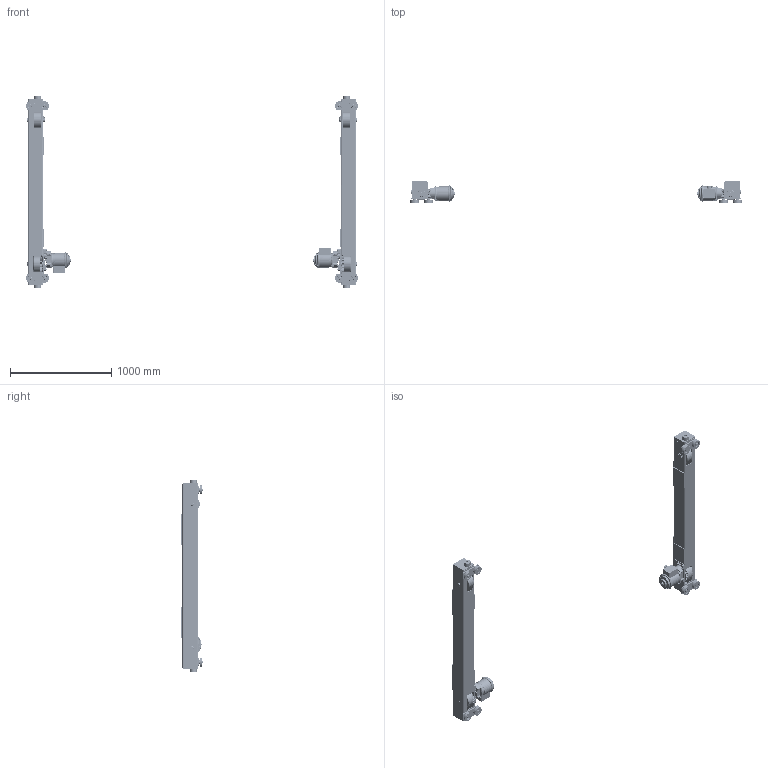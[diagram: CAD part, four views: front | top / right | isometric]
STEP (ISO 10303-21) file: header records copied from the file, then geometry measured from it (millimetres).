
FILE_DESCRIPTION (( 'STEP AP214' ), '1' );
FILE_NAME ('MTMH-3-0335.STEP', '2026-08-14T13:00:07', ( '' ), ( '' ), 'SwSTEP 2.0', 'SolidWorks 2026', '' );
FILE_SCHEMA (( 'AUTOMOTIVE_DESIGN' ));
Length unit declared in the file: inch
Products named in the file (67): 6240815; N6QO720E91311; 6240824; MTMH-3-0335; J1BE1-0602020_AS 1420 - M6 x 20-S; 62588; 9012707_9012707; G1JE040S9609; 9000605; G1JE025S9303; 5204613; 9047252_9047252; MS555010_MS555010; T7G117030; N6QO310E9108_N6QO3101108 DOMESTIC; 9012711_9012711; T600-600-004_71.125; N6QL210207; G1JE025S9603; 9012709_Rectangular section spring washer BS 4464 - 16 (Type B); G1JE025S9604; 6240805X_6240805A; G1JE025S9610; J1WS011-10060_GB_FASTENER_WASHER_SW 6; 9012514_9012514; 62587; G1JE025S9401; G1JE040T9503; 6240820; 9047125_B27.7M - 3AM1-23; 6240825; 9093330_9093330; G1JE025S9701; 6240810; 9091250_9091250; G1JE025S9707; N6Q07201102; N6QO720E91013; 9093101_9093101; 9093327_9093327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
Assembly tree (250 placements, depth 4):
  MTMH-3-0335
    62422_0245-0335 - 25# RAIL
      62420_6242001
        T600-600-004_71.125
        6240824
        6240820
        6240824
      6240811  x2
      6240810
      6240808
      6240809
      T7G117030
      6240817X_6240817A  x2
        6240805X_6240805A
        6232305
      5204613  x2
    62423_0245-0335 - 25# RAIL
      62421_6242101
        T600-600-004_71.125
        6240824
        6240820
        6240824
      6240811  x2
      T7G117030
      6240809
      6240808
      6240810
      6240817X_6240817A  x2
        6240805X_6240805A
        6232305
      5204613  x2
    N6QO3101108_N6QO3101108  x8
      N6QO310E9108_N6QO3101108 DOMESTIC
      9047252_9047252
      9000605
    6232404  x8
    9047125_B27.7M - 3AM1-23  x8
    N6QL210207  x4
    9012514_9012514  x4
    9012711_9012711  x20
    9093101_9093101  x4
    6240815  x4
    6240825  x4
    9093327_9093327  x8
    N6QO7201101  x2
      N6QO720E91311
      N6QO720E91013
      9000707
      J1WS011-10060_GB_FASTENER_WASHER_SW 6
      J1BE1-0602020_AS 1420 - M6 x 20-S
      N6QO720E91341
    N6Q07201102  x2
      N6Q0720E9102
      9000707
    G1JM040T_ROTATED 180 DEGREES
      G1JE025S9303
      G1JE025S9310
      G1JE025S9401
      G1JE025S9610
      G1JE025S9604
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Bounding box: 3275.61 x 207.96 x 1903.62 mm (x, y, z)
Volume: 31480658 mm3; surface area: 7649699.1 mm2
Topology: 274 solids, 338 shells, 18464 faces, 46470 edges, 29440 vertices
Faces by surface type: plane 9042, cylinder 4400, cone 2038, bspline 1942, torus 844, sphere 198
Entity records: 188419 total; most frequent: CARTESIAN_POINT 77476, ORIENTED_EDGE 22316, DIRECTION 20497, EDGE_CURVE 11162, AXIS2_PLACEMENT_3D 7730, VERTEX_POINT 7137, LINE 5037, VECTOR 5037
